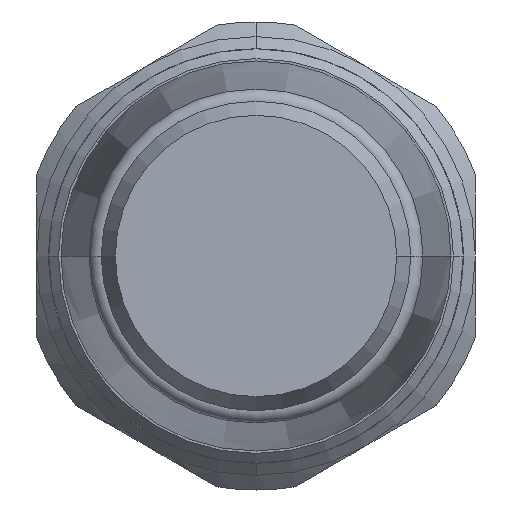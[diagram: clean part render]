
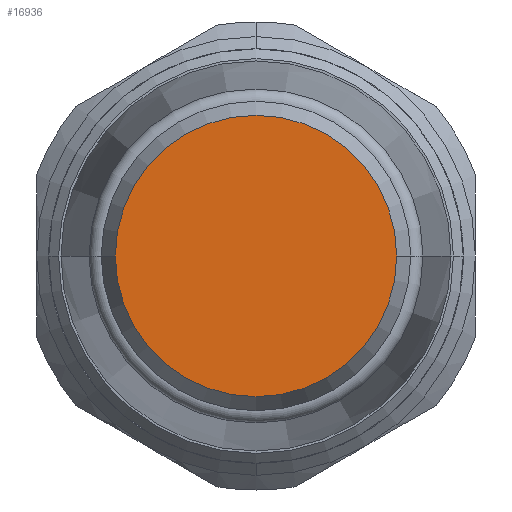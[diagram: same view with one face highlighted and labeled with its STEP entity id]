
A CAD part, left-side view. The second image highlights one B-rep face of the part: STEP entity #16936.
In plain terms, the highlighted planar face has unit normal (-1, 0, 0).
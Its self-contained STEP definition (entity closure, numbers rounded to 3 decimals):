
#203 = VERTEX_POINT ( 'NONE', #17010 ) ;
#671 = CARTESIAN_POINT ( 'NONE',  ( -15.15, 2.493, 0. ) ) ;
#1987 = AXIS2_PLACEMENT_3D ( 'NONE', #10469, #2269, #11864 ) ;
#2048 = ORIENTED_EDGE ( 'NONE', *, *, #17022, .F. ) ;
#2269 = DIRECTION ( 'NONE',  ( 1., 0., 0. ) ) ;
#2918 = CIRCLE ( 'NONE', #15479, 2.886 ) ;
#3319 = ORIENTED_EDGE ( 'NONE', *, *, #11565, .F. ) ;
#3335 = CARTESIAN_POINT ( 'NONE',  ( -15.15, 2.886, 0. ) ) ;
#3370 = CARTESIAN_POINT ( 'NONE',  ( -15.15, 0., 0. ) ) ;
#4745 = PLANE ( 'NONE',  #15184 ) ;
#4752 = DIRECTION ( 'NONE',  ( 0., -1., 0. ) ) ;
#4808 = DIRECTION ( 'NONE',  ( -1., 0., 0. ) ) ;
#9871 = EDGE_LOOP ( 'NONE', ( #2048, #3319 ) ) ;
#10469 = CARTESIAN_POINT ( 'NONE',  ( -15.15, 0., 0. ) ) ;
#11565 = EDGE_CURVE ( 'NONE', #203, #16312, #2918, .T. ) ;
#11864 = DIRECTION ( 'NONE',  ( 0., -1., 0. ) ) ;
#12326 = FACE_OUTER_BOUND ( 'NONE', #9871, .T. ) ;
#12966 = DIRECTION ( 'NONE',  ( 1., 0., 0. ) ) ;
#14372 = DIRECTION ( 'NONE',  ( 0., -1., 0. ) ) ;
#15088 = CIRCLE ( 'NONE', #1987, 2.886 ) ;
#15184 = AXIS2_PLACEMENT_3D ( 'NONE', #671, #4808, #14372 ) ;
#15479 = AXIS2_PLACEMENT_3D ( 'NONE', #3370, #12966, #4752 ) ;
#16312 = VERTEX_POINT ( 'NONE', #3335 ) ;
#16936 = ADVANCED_FACE ( 'NONE', ( #12326 ), #4745, .T. ) ;
#17010 = CARTESIAN_POINT ( 'NONE',  ( -15.15, -2.886, 0. ) ) ;
#17022 = EDGE_CURVE ( 'NONE', #16312, #203, #15088, .T. ) ;
